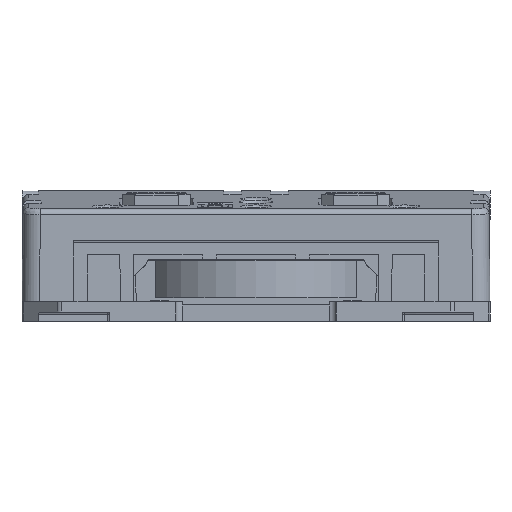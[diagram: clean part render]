
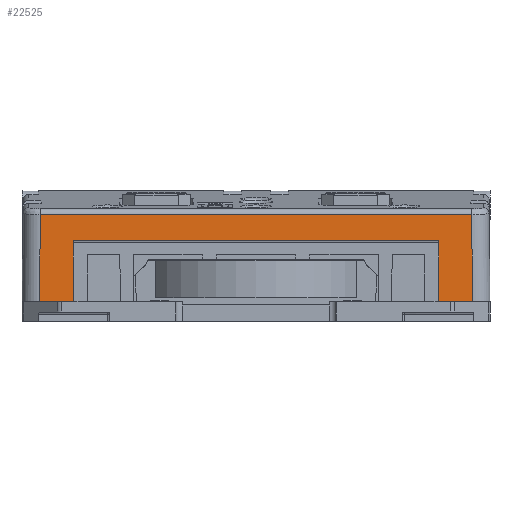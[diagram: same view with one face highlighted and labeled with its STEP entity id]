
A CAD part, front view. The second image highlights one B-rep face of the part: STEP entity #22525.
In plain terms, the highlighted planar face has unit normal (0, -1, 0.009).
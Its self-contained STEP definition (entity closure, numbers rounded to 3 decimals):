
#2357=PLANE('',#23871);
#3304=FACE_OUTER_BOUND('',#4487,.T.);
#4487=EDGE_LOOP('',(#18271,#18272,#18273,#18274,#18275,#18276,#18277,#18278));
#5560=LINE('',#32564,#7951);
#6313=LINE('',#34699,#8704);
#6316=LINE('',#34708,#8707);
#6326=LINE('',#34786,#8717);
#6370=LINE('',#35002,#8761);
#6373=LINE('',#35008,#8764);
#6409=LINE('',#35075,#8800);
#6496=LINE('',#35476,#8887);
#7951=VECTOR('',#25163,10.);
#8704=VECTOR('',#26832,7.43);
#8707=VECTOR('',#26841,7.43);
#8717=VECTOR('',#26879,36.87);
#8761=VECTOR('',#26991,31.2);
#8764=VECTOR('',#26996,5.2);
#8800=VECTOR('',#27042,5.2);
#8887=VECTOR('',#27191,10.);
#10592=VERTEX_POINT('',#32561);
#10593=VERTEX_POINT('',#32563);
#11224=VERTEX_POINT('',#34696);
#11227=VERTEX_POINT('',#34703);
#11228=VERTEX_POINT('',#34706);
#11273=VERTEX_POINT('',#34999);
#11274=VERTEX_POINT('',#35001);
#11276=VERTEX_POINT('',#35007);
#12800=EDGE_CURVE('',#10592,#10593,#5560,.T.);
#13742=EDGE_CURVE('',#11224,#10592,#6313,.T.);
#13747=EDGE_CURVE('',#11228,#11227,#6316,.T.);
#13768=EDGE_CURVE('',#11227,#11224,#6326,.T.);
#13828=EDGE_CURVE('',#11274,#11273,#6370,.T.);
#13831=EDGE_CURVE('',#11276,#11274,#6373,.T.);
#13867=EDGE_CURVE('',#11273,#10593,#6409,.T.);
#13981=EDGE_CURVE('',#11276,#11228,#6496,.T.);
#18271=ORIENTED_EDGE('',*,*,#13828,.T.);
#18272=ORIENTED_EDGE('',*,*,#13867,.T.);
#18273=ORIENTED_EDGE('',*,*,#12800,.F.);
#18274=ORIENTED_EDGE('',*,*,#13742,.F.);
#18275=ORIENTED_EDGE('',*,*,#13768,.F.);
#18276=ORIENTED_EDGE('',*,*,#13747,.F.);
#18277=ORIENTED_EDGE('',*,*,#13981,.F.);
#18278=ORIENTED_EDGE('',*,*,#13831,.T.);
#22525=ADVANCED_FACE('',(#3304),#2357,.T.);
#23871=AXIS2_PLACEMENT_3D('',#35475,#27189,#27190);
#25163=DIRECTION('',(-1.,0.,0.));
#26832=DIRECTION('',(0.009,-0.009,-1.));
#26841=DIRECTION('',(0.009,0.009,1.));
#26879=DIRECTION('',(1.,0.,0.));
#26991=DIRECTION('',(1.,0.,0.));
#26996=DIRECTION('',(0.,0.009,1.));
#27042=DIRECTION('',(0.,-0.009,-1.));
#27189=DIRECTION('center_axis',(0.,-1.,0.009));
#27190=DIRECTION('ref_axis',(0.,-0.009,-1.));
#27191=DIRECTION('',(-1.,0.,0.));
#32561=CARTESIAN_POINT('',(18.5,-16.7,1.7));
#32563=CARTESIAN_POINT('',(15.6,-16.7,1.7));
#32564=CARTESIAN_POINT('',(0.,-16.7,1.7));
#34696=CARTESIAN_POINT('',(18.435,-16.635,9.129));
#34699=CARTESIAN_POINT('',(18.437,-16.637,8.906));
#34703=CARTESIAN_POINT('',(-18.435,-16.635,9.129));
#34706=CARTESIAN_POINT('',(-18.5,-16.7,1.7));
#34708=CARTESIAN_POINT('',(-18.437,-16.637,8.906));
#34786=CARTESIAN_POINT('',(0.,-16.635,9.129));
#34999=CARTESIAN_POINT('',(15.6,-16.655,6.9));
#35001=CARTESIAN_POINT('',(-15.6,-16.655,6.9));
#35002=CARTESIAN_POINT('',(-1.7,-16.655,6.9));
#35007=CARTESIAN_POINT('',(-15.6,-16.7,1.7));
#35008=CARTESIAN_POINT('',(-15.6,-16.666,5.643));
#35075=CARTESIAN_POINT('',(15.6,-16.666,5.643));
#35475=CARTESIAN_POINT('Origin',(0.,-16.631,9.579));
#35476=CARTESIAN_POINT('',(0.,-16.7,1.7));
